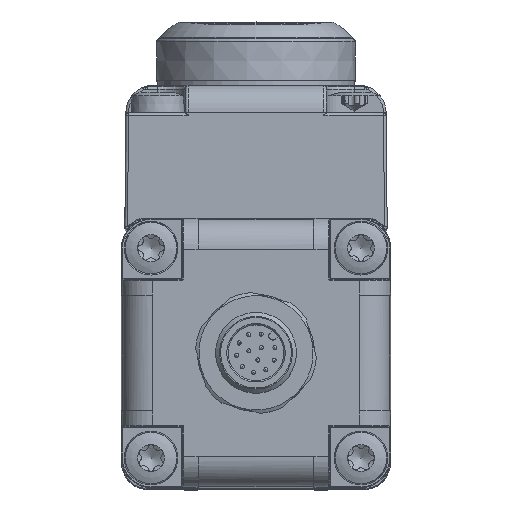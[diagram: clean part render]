
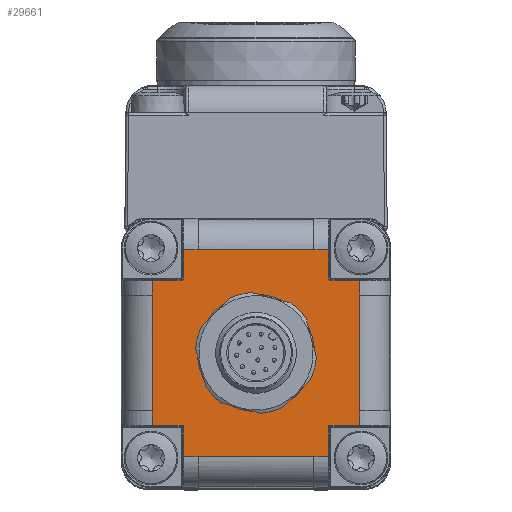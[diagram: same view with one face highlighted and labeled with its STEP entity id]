
A CAD part, top view. The second image highlights one B-rep face of the part: STEP entity #29661.
In plain terms, the highlighted planar face has unit normal (0, 0, 1).
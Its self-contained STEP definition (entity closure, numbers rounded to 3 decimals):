
#613=ELLIPSE('',#31796,0.2,0.2);
#614=ELLIPSE('',#31797,0.2,0.2);
#615=ELLIPSE('',#31798,0.2,0.2);
#616=ELLIPSE('',#31799,0.2,0.2);
#866=FACE_BOUND('',#7419,.T.);
#1025=PLANE('',#31795);
#1588=LINE('',#45778,#3232);
#1589=LINE('',#45782,#3233);
#1590=LINE('',#45784,#3234);
#1591=LINE('',#45786,#3235);
#1592=LINE('',#45788,#3236);
#1593=LINE('',#45790,#3237);
#1594=LINE('',#45794,#3238);
#1595=LINE('',#45796,#3239);
#1596=LINE('',#45798,#3240);
#1597=LINE('',#45800,#3241);
#1598=LINE('',#45802,#3242);
#1599=LINE('',#45806,#3243);
#1600=LINE('',#45808,#3244);
#1601=LINE('',#45810,#3245);
#1602=LINE('',#45812,#3246);
#1603=LINE('',#45814,#3247);
#1604=LINE('',#45818,#3248);
#1605=LINE('',#45820,#3249);
#1606=LINE('',#45822,#3250);
#1607=LINE('',#45823,#3251);
#3232=VECTOR('',#35833,10.);
#3233=VECTOR('',#35836,10.);
#3234=VECTOR('',#35837,10.);
#3235=VECTOR('',#35838,10.);
#3236=VECTOR('',#35839,10.);
#3237=VECTOR('',#35840,10.);
#3238=VECTOR('',#35843,10.);
#3239=VECTOR('',#35844,10.);
#3240=VECTOR('',#35845,10.);
#3241=VECTOR('',#35846,10.);
#3242=VECTOR('',#35847,10.);
#3243=VECTOR('',#35850,10.);
#3244=VECTOR('',#35851,10.);
#3245=VECTOR('',#35852,10.);
#3246=VECTOR('',#35853,10.);
#3247=VECTOR('',#35854,10.);
#3248=VECTOR('',#35857,10.);
#3249=VECTOR('',#35858,10.);
#3250=VECTOR('',#35859,10.);
#3251=VECTOR('',#35860,10.);
#5488=FACE_OUTER_BOUND('',#7418,.T.);
#7418=EDGE_LOOP('',(#20515,#20516,#20517,#20518,#20519,#20520,#20521,#20522,
#20523,#20524,#20525,#20526,#20527,#20528,#20529,#20530,#20531,#20532,#20533,
#20534,#20535,#20536,#20537,#20538));
#7419=EDGE_LOOP('',(#20539));
#9441=CIRCLE('',#31770,8.7);
#12346=VERTEX_POINT('',#45585);
#12395=VERTEX_POINT('',#45776);
#12396=VERTEX_POINT('',#45777);
#12397=VERTEX_POINT('',#45779);
#12398=VERTEX_POINT('',#45781);
#12399=VERTEX_POINT('',#45783);
#12400=VERTEX_POINT('',#45785);
#12401=VERTEX_POINT('',#45787);
#12402=VERTEX_POINT('',#45789);
#12403=VERTEX_POINT('',#45791);
#12404=VERTEX_POINT('',#45793);
#12405=VERTEX_POINT('',#45795);
#12406=VERTEX_POINT('',#45797);
#12407=VERTEX_POINT('',#45799);
#12408=VERTEX_POINT('',#45801);
#12409=VERTEX_POINT('',#45803);
#12410=VERTEX_POINT('',#45805);
#12411=VERTEX_POINT('',#45807);
#12412=VERTEX_POINT('',#45809);
#12413=VERTEX_POINT('',#45811);
#12414=VERTEX_POINT('',#45813);
#12415=VERTEX_POINT('',#45815);
#12416=VERTEX_POINT('',#45817);
#12417=VERTEX_POINT('',#45819);
#12418=VERTEX_POINT('',#45821);
#15390=EDGE_CURVE('',#12346,#12346,#9441,.T.);
#15444=EDGE_CURVE('',#12395,#12396,#1588,.T.);
#15445=EDGE_CURVE('',#12397,#12395,#613,.T.);
#15446=EDGE_CURVE('',#12398,#12397,#1589,.T.);
#15447=EDGE_CURVE('',#12399,#12398,#1590,.T.);
#15448=EDGE_CURVE('',#12400,#12399,#1591,.T.);
#15449=EDGE_CURVE('',#12401,#12400,#1592,.T.);
#15450=EDGE_CURVE('',#12402,#12401,#1593,.T.);
#15451=EDGE_CURVE('',#12403,#12402,#614,.T.);
#15452=EDGE_CURVE('',#12404,#12403,#1594,.T.);
#15453=EDGE_CURVE('',#12405,#12404,#1595,.T.);
#15454=EDGE_CURVE('',#12406,#12405,#1596,.T.);
#15455=EDGE_CURVE('',#12407,#12406,#1597,.T.);
#15456=EDGE_CURVE('',#12408,#12407,#1598,.T.);
#15457=EDGE_CURVE('',#12409,#12408,#615,.T.);
#15458=EDGE_CURVE('',#12410,#12409,#1599,.T.);
#15459=EDGE_CURVE('',#12411,#12410,#1600,.T.);
#15460=EDGE_CURVE('',#12412,#12411,#1601,.T.);
#15461=EDGE_CURVE('',#12413,#12412,#1602,.T.);
#15462=EDGE_CURVE('',#12414,#12413,#1603,.T.);
#15463=EDGE_CURVE('',#12415,#12414,#616,.T.);
#15464=EDGE_CURVE('',#12416,#12415,#1604,.T.);
#15465=EDGE_CURVE('',#12417,#12416,#1605,.T.);
#15466=EDGE_CURVE('',#12418,#12417,#1606,.T.);
#15467=EDGE_CURVE('',#12396,#12418,#1607,.T.);
#20515=ORIENTED_EDGE('',*,*,#15444,.F.);
#20516=ORIENTED_EDGE('',*,*,#15445,.F.);
#20517=ORIENTED_EDGE('',*,*,#15446,.F.);
#20518=ORIENTED_EDGE('',*,*,#15447,.F.);
#20519=ORIENTED_EDGE('',*,*,#15448,.F.);
#20520=ORIENTED_EDGE('',*,*,#15449,.F.);
#20521=ORIENTED_EDGE('',*,*,#15450,.F.);
#20522=ORIENTED_EDGE('',*,*,#15451,.F.);
#20523=ORIENTED_EDGE('',*,*,#15452,.F.);
#20524=ORIENTED_EDGE('',*,*,#15453,.F.);
#20525=ORIENTED_EDGE('',*,*,#15454,.F.);
#20526=ORIENTED_EDGE('',*,*,#15455,.F.);
#20527=ORIENTED_EDGE('',*,*,#15456,.F.);
#20528=ORIENTED_EDGE('',*,*,#15457,.F.);
#20529=ORIENTED_EDGE('',*,*,#15458,.F.);
#20530=ORIENTED_EDGE('',*,*,#15459,.F.);
#20531=ORIENTED_EDGE('',*,*,#15460,.F.);
#20532=ORIENTED_EDGE('',*,*,#15461,.F.);
#20533=ORIENTED_EDGE('',*,*,#15462,.F.);
#20534=ORIENTED_EDGE('',*,*,#15463,.F.);
#20535=ORIENTED_EDGE('',*,*,#15464,.F.);
#20536=ORIENTED_EDGE('',*,*,#15465,.F.);
#20537=ORIENTED_EDGE('',*,*,#15466,.F.);
#20538=ORIENTED_EDGE('',*,*,#15467,.F.);
#20539=ORIENTED_EDGE('',*,*,#15390,.T.);
#29661=ADVANCED_FACE('',(#5488,#866),#1025,.T.);
#31770=AXIS2_PLACEMENT_3D('',#45587,#35751,#35752);
#31795=AXIS2_PLACEMENT_3D('',#45775,#35831,#35832);
#31796=AXIS2_PLACEMENT_3D('',#45780,#35834,#35835);
#31797=AXIS2_PLACEMENT_3D('',#45792,#35841,#35842);
#31798=AXIS2_PLACEMENT_3D('',#45804,#35848,#35849);
#31799=AXIS2_PLACEMENT_3D('',#45816,#35855,#35856);
#35751=DIRECTION('center_axis',(0.,0.,
-1.));
#35752=DIRECTION('ref_axis',(1.,0.,0.));
#35831=DIRECTION('center_axis',(0.,0.,
1.));
#35832=DIRECTION('ref_axis',(0.,1.,0.));
#35833=DIRECTION('',(1.,0.,0.));
#35834=DIRECTION('center_axis',(0.,0.,
1.));
#35835=DIRECTION('ref_axis',(-0.707,-0.707,0.));
#35836=DIRECTION('',(0.,-1.,0.));
#35837=DIRECTION('',(1.,0.,0.));
#35838=DIRECTION('',(1.,0.,0.));
#35839=DIRECTION('',(1.,0.,0.));
#35840=DIRECTION('',(0.,1.,0.));
#35841=DIRECTION('center_axis',(0.,0.,
1.));
#35842=DIRECTION('ref_axis',(0.707,-0.707,0.));
#35843=DIRECTION('',(1.,0.,0.));
#35844=DIRECTION('',(0.,1.,0.));
#35845=DIRECTION('',(0.,1.,0.));
#35846=DIRECTION('',(0.,1.,0.));
#35847=DIRECTION('',(-1.,0.,0.));
#35848=DIRECTION('center_axis',(0.,0.,
1.));
#35849=DIRECTION('ref_axis',(0.707,0.707,0.));
#35850=DIRECTION('',(0.,1.,0.));
#35851=DIRECTION('',(-1.,0.,0.));
#35852=DIRECTION('',(-1.,0.,0.));
#35853=DIRECTION('',(-1.,0.,0.));
#35854=DIRECTION('',(0.,-1.,0.));
#35855=DIRECTION('center_axis',(0.,0.,
1.));
#35856=DIRECTION('ref_axis',(-0.707,0.707,0.));
#35857=DIRECTION('',(-1.,0.,0.));
#35858=DIRECTION('',(0.,-1.,0.));
#35859=DIRECTION('',(0.,-1.,0.));
#35860=DIRECTION('',(0.,-1.,0.));
#45585=CARTESIAN_POINT('',(6.152,6.152,169.45));
#45587=CARTESIAN_POINT('Origin',(0.,0.,
169.45));
#45775=CARTESIAN_POINT('Origin',(0.,0.,
169.45));
#45776=CARTESIAN_POINT('',(10.987,10.787,169.45));
#45777=CARTESIAN_POINT('',(15.393,10.787,169.45));
#45778=CARTESIAN_POINT('',(-5.5,10.787,169.45));
#45779=CARTESIAN_POINT('',(10.787,10.987,169.45));
#45780=CARTESIAN_POINT('Origin',(10.987,10.987,169.45));
#45781=CARTESIAN_POINT('',(10.787,15.393,169.45));
#45782=CARTESIAN_POINT('',(10.787,-10.,169.45));
#45783=CARTESIAN_POINT('',(8.6,15.393,169.45));
#45784=CARTESIAN_POINT('',(10.,15.393,169.45));
#45785=CARTESIAN_POINT('',(-8.6,15.393,169.45));
#45786=CARTESIAN_POINT('',(10.,15.393,169.45));
#45787=CARTESIAN_POINT('',(-10.787,15.393,169.45));
#45788=CARTESIAN_POINT('',(10.,15.393,169.45));
#45789=CARTESIAN_POINT('',(-10.787,10.987,169.45));
#45790=CARTESIAN_POINT('',(-10.787,-5.5,169.45));
#45791=CARTESIAN_POINT('',(-10.987,10.787,169.45));
#45792=CARTESIAN_POINT('Origin',(-10.987,10.987,169.45));
#45793=CARTESIAN_POINT('',(-15.393,10.787,169.45));
#45794=CARTESIAN_POINT('',(-5.5,10.787,169.45));
#45795=CARTESIAN_POINT('',(-15.393,8.6,169.45));
#45796=CARTESIAN_POINT('',(-15.393,10.,169.45));
#45797=CARTESIAN_POINT('',(-15.393,-8.6,169.45));
#45798=CARTESIAN_POINT('',(-15.393,10.,169.45));
#45799=CARTESIAN_POINT('',(-15.393,-10.787,169.45));
#45800=CARTESIAN_POINT('',(-15.393,10.,169.45));
#45801=CARTESIAN_POINT('',(-10.987,-10.787,169.45));
#45802=CARTESIAN_POINT('',(-10.,-10.787,169.45));
#45803=CARTESIAN_POINT('',(-10.787,-10.987,169.45));
#45804=CARTESIAN_POINT('Origin',(-10.987,-10.987,169.45));
#45805=CARTESIAN_POINT('',(-10.787,-15.393,169.45));
#45806=CARTESIAN_POINT('',(-10.787,-5.5,169.45));
#45807=CARTESIAN_POINT('',(-8.6,-15.393,169.45));
#45808=CARTESIAN_POINT('',(-10.,-15.393,169.45));
#45809=CARTESIAN_POINT('',(8.6,-15.393,169.45));
#45810=CARTESIAN_POINT('',(-10.,-15.393,169.45));
#45811=CARTESIAN_POINT('',(10.787,-15.393,169.45));
#45812=CARTESIAN_POINT('',(-10.,-15.393,169.45));
#45813=CARTESIAN_POINT('',(10.787,-10.987,169.45));
#45814=CARTESIAN_POINT('',(10.787,-10.,169.45));
#45815=CARTESIAN_POINT('',(10.987,-10.787,169.45));
#45816=CARTESIAN_POINT('Origin',(10.987,-10.987,169.45));
#45817=CARTESIAN_POINT('',(15.393,-10.787,169.45));
#45818=CARTESIAN_POINT('',(-10.,-10.787,169.45));
#45819=CARTESIAN_POINT('',(15.393,-8.6,169.45));
#45820=CARTESIAN_POINT('',(15.393,-10.,169.45));
#45821=CARTESIAN_POINT('',(15.393,8.6,169.45));
#45822=CARTESIAN_POINT('',(15.393,-10.,169.45));
#45823=CARTESIAN_POINT('',(15.393,-10.,169.45));
